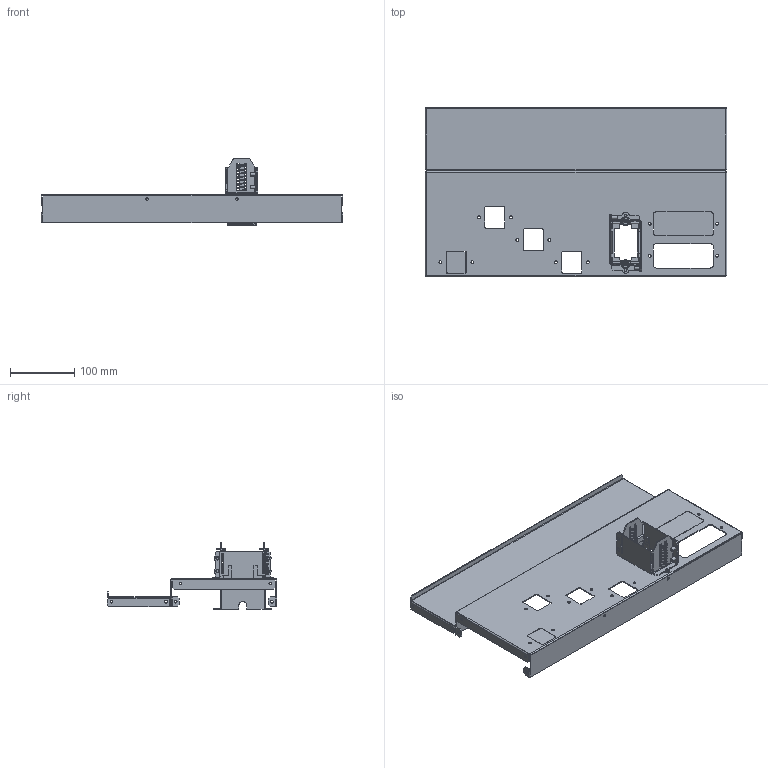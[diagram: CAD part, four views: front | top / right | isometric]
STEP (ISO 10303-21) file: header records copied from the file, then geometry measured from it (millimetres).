
FILE_DESCRIPTION(('CAx-IF Rec.Pracs.---Model Styling and Organization---1.2---2011-12-15','CAx-IF Rec.Pracs.---Geometric and Assembly Validation Properties---4.1---2014-06-16','CAx-IF Rec.Pracs.---PMI Polyline Presentation---2.0---2013-05-24'),'2;1');
FILE_NAME('R5M2W6M1BR21.stp','2021-05-05T12:33:07+03:00',(''),(''),'STEP Interface 4.4 by CT CoreTechnologie','3D_Evolution4.4 by CT CoreTechnologie','');
FILE_SCHEMA(('AUTOMOTIVE_DESIGN { 1 0 10303 214 1 1 1 1 }'));
Length unit declared in the file: millimetre
Products named in the file (9): R5M2W6M1BR22; RB.1567.00.00.0_-00; RB.1765.00.00.0 ÑÁ; RB.1570.00.00.0; RB.1569.00.00.1_-00; RB.1571.00.00.0_In prestressed condition - 40 mm; M5x8-DIN7500C_stright; RB.1506.00.00.0_-02; RB.1507.00.00.0_-01
Assembly tree (14 placements, depth 3):
  R5M2W6M1BR22
    RB.1567.00.00.0_-00
    RB.1765.00.00.0 ÑÁ
      RB.1570.00.00.0  x2
      RB.1569.00.00.1_-00  x2
      RB.1571.00.00.0_In prestressed condition - 40 mm  x2
      M5x8-DIN7500C_stright  x4
    RB.1506.00.00.0_-02
    RB.1507.00.00.0_-01
Bounding box: 470 x 264.2 x 103.8 mm (x, y, z)
Surface area: 409275.9 mm2 (no closed solid volume)
Topology: 0 solids, 21 shells, 754 faces, 1991 edges, 1279 vertices
Faces by surface type: plane 500, cylinder 222, bspline 32
Entity records: 19691 total; most frequent: CARTESIAN_POINT 4709, ORIENTED_EDGE 3002, DIRECTION 2979, EDGE_CURVE 1501, VECTOR 1117, LINE 1117, VERTEX_POINT 961, AXIS2_PLACEMENT_3D 931
